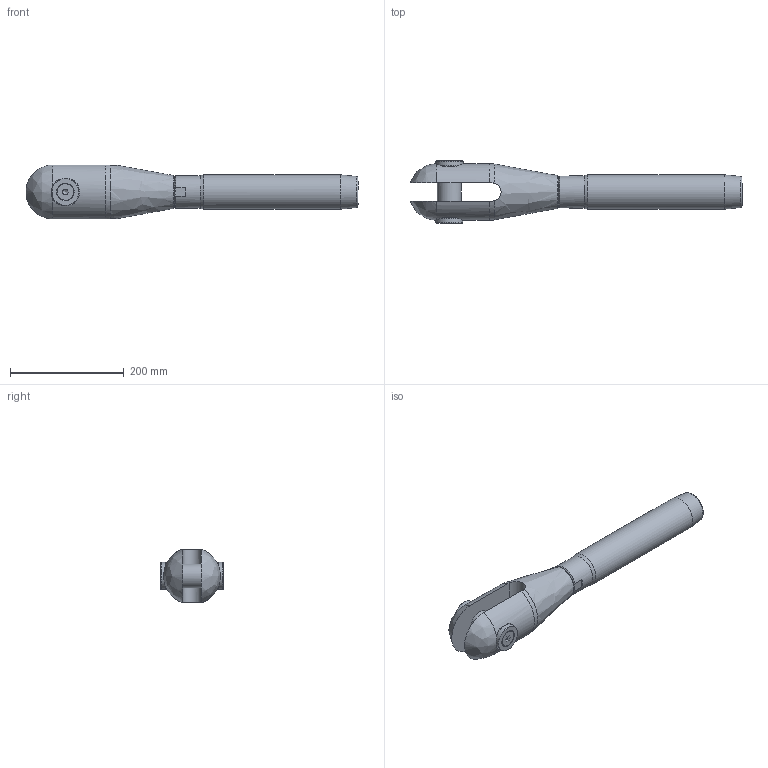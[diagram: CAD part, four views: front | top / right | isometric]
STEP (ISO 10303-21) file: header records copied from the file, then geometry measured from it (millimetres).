
FILE_DESCRIPTION(/* description */ (''),/* implementation_level */ '2;1');
FILE_NAME(/* name */ 'MAC-R 30_1,4418',/* time_stamp */ '2023-05-23T17:52:16+02:00',/* author */ (''),/* organization */ (''),/* preprocessor_version */ 'ST-DEVELOPER v16.5',/* originating_system */ 'Rhino 7.22',/* authorisation */ '');
FILE_SCHEMA (('CONFIG_CONTROL_DESIGN'));
Length unit declared in the file: millimetre
Products named in the file (1): Document
Bounding box: 584.28 x 109.8 x 94.74 mm (x, y, z)
Volume: 2100893.2 mm3; surface area: 219027.4 mm2
Topology: 7 solids, 7 shells, 87 faces, 245 edges, 171 vertices
Faces by surface type: plane 36, bspline 27, cylinder 24
Full cylindrical faces by diameter (mm): 13.835 x2, 16 x2, 17 x2, 29.01 x2, 41.752 x1, 42 x1, 44 x2, 45 x1, 48 x2, 57.2 x1, 60.5 x1
Entity records: 3523 total; most frequent: CARTESIAN_POINT 1967, ORIENTED_EDGE 480, EDGE_CURVE 240, VERTEX_POINT 171, EDGE_LOOP 99, B_SPLINE_CURVE_WITH_KNOTS 96, ADVANCED_FACE 87, FACE_OUTER_BOUND 87
